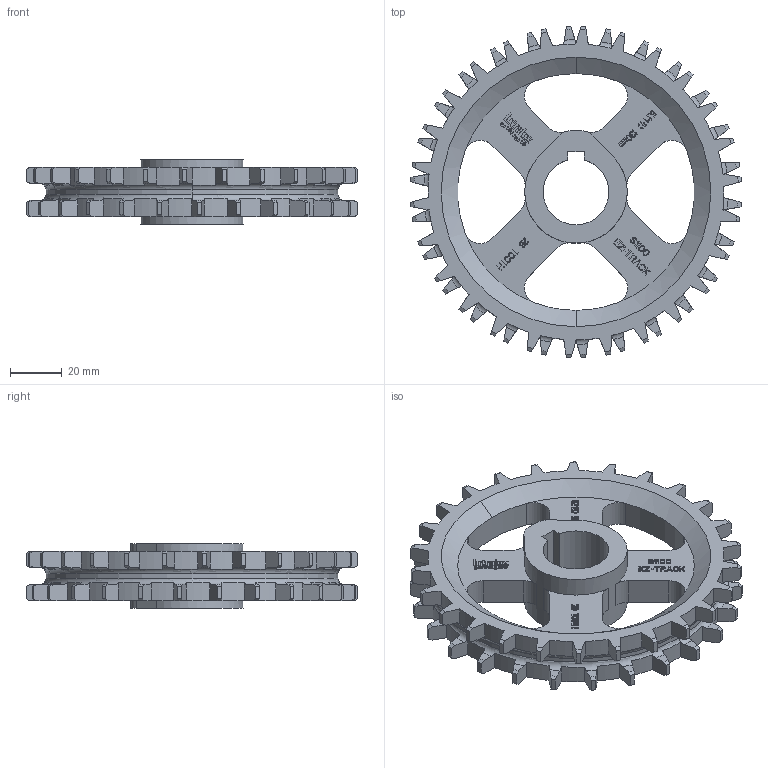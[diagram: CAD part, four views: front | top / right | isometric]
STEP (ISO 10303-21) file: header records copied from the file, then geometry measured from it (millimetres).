
FILE_DESCRIPTION((''),'2;1');
FILE_NAME('S1100_EZ_TRACK_CLEAN_51X1_PILOT','2008-12-12T',('jmumphre'),(''),'PRO/ENGINEER BY PARAMETRIC TECHNOLOGY CORPORATION, 2008150','PRO/ENGINEER BY PARAMETRIC TECHNOLOGY CORPORATION, 2008150','');
FILE_SCHEMA(('CONFIG_CONTROL_DESIGN'));
Length unit declared in the file: inch
Products named in the file (1): S1100_EZ_TRACK_CLEAN_51X1_PILOT
Bounding box: 127.95 x 127.99 x 24.89 mm (x, y, z)
Volume: 110705.9 mm3; surface area: 35393.5 mm2
Topology: 1 solids, 1 shells, 1459 faces, 4189 edges, 2786 vertices
Faces by surface type: plane 1232, cylinder 167, cone 56, torus 4
Entity records: 47965 total; most frequent: CARTESIAN_POINT 9714, ORIENTED_EDGE 8378, DIRECTION 7313, EDGE_CURVE 4189, VECTOR 3455, LINE 3455, VERTEX_POINT 2786, AXIS2_PLACEMENT_3D 1929
